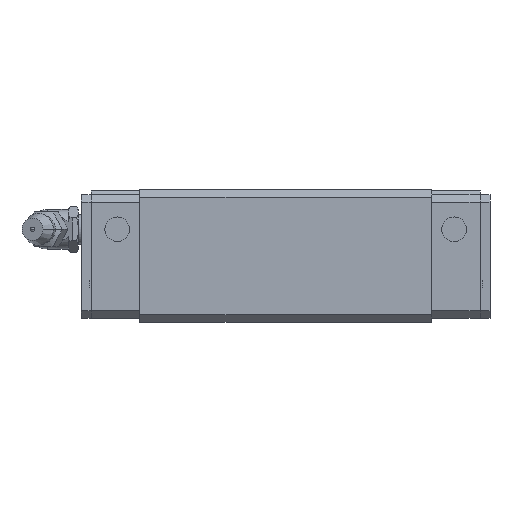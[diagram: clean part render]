
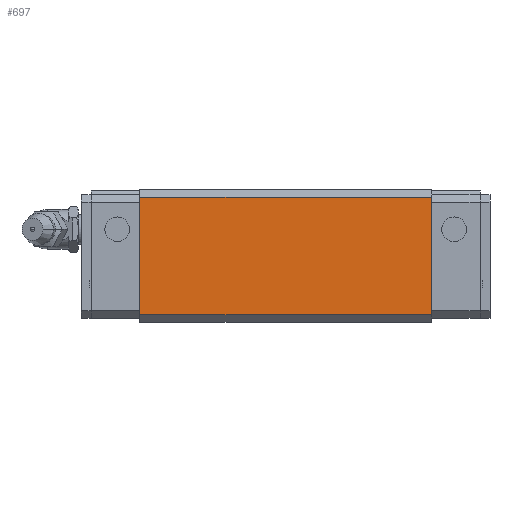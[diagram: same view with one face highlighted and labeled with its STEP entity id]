
A CAD part, front view. The second image highlights one B-rep face of the part: STEP entity #697.
In plain terms, the highlighted planar face has unit normal (0, -1, 0).
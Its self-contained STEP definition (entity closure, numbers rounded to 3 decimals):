
#636=CARTESIAN_POINT('POINT744',(70.8,-24.,
   0.7));
#637=VERTEX_POINT('VERTEX744',#636);
#644=CARTESIAN_POINT('POINT745',(11.8,-24.,
   0.7));
#645=VERTEX_POINT('VERTEX745',#644);
#646=CARTESIAN_POINT('POS1301',(11.8,-24.,
   0.7));
#647=DIRECTION('DIR1959',(1.,0.,0.));
#648=VECTOR('VEC643',#647,1.);
#649=LINE('STRAIGHT643',#646,#648);
#650=EDGE_CURVE('EDGE1152',#645,#637,#649,.T.);
#667=CARTESIAN_POINT('POINT746',(70.8,-24.,
   24.5));
#668=VERTEX_POINT('VERTEX746',#667);
#669=CARTESIAN_POINT('POS1304',(70.8,-24.,
   0.7));
#670=DIRECTION('DIR1963',(0.,0.,1.));
#671=VECTOR('VEC645',#670,1.);
#672=LINE('STRAIGHT645',#669,#671);
#673=EDGE_CURVE('EDGE1154',#637,#668,#672,.T.);
#674=ORIENTED_EDGE('COEDGE2295',*,*,#673,.T.);
#675=CARTESIAN_POINT('POINT747',(11.8,-24.,
   24.5));
#676=VERTEX_POINT('VERTEX747',#675);
#677=CARTESIAN_POINT('POS1305',(11.8,-24.,
   24.5));
#678=DIRECTION('DIR1964',(1.,0.,0.));
#679=VECTOR('VEC646',#678,1.);
#680=LINE('STRAIGHT646',#677,#679);
#681=EDGE_CURVE('EDGE1155',#676,#668,#680,.T.);
#682=ORIENTED_EDGE('COEDGE2296',*,*,#681,.F.);
#683=CARTESIAN_POINT('POS1306',(11.8,-24.,
   0.7));
#684=DIRECTION('DIR1965',(0.,0.,1.));
#685=VECTOR('VEC647',#684,1.);
#686=LINE('STRAIGHT647',#683,#685);
#687=EDGE_CURVE('EDGE1156',#645,#676,#686,.T.);
#688=ORIENTED_EDGE('COEDGE2297',*,*,#687,.F.);
#689=ORIENTED_EDGE('COEDGE2298',*,*,#650,.T.);
#690=EDGE_LOOP('NONE',(#674,#682,#688,#689));
#691=FACE_BOUND('LOOP1',#690,.T.);
#692=CARTESIAN_POINT('POS1307',(11.8,-24.,
   0.7));
#693=DIRECTION('DIR1966',(0.,-1.,0.));
#694=DIRECTION('DIR1967',(1.,0.,0.));
#695=AXIS2_PLACEMENT_3D('AXIS660',#692,#693,#694);
#696=PLANE('PLANE197',#695);
#697=ADVANCED_FACE('FACE453',(#691),#696,.T.);
